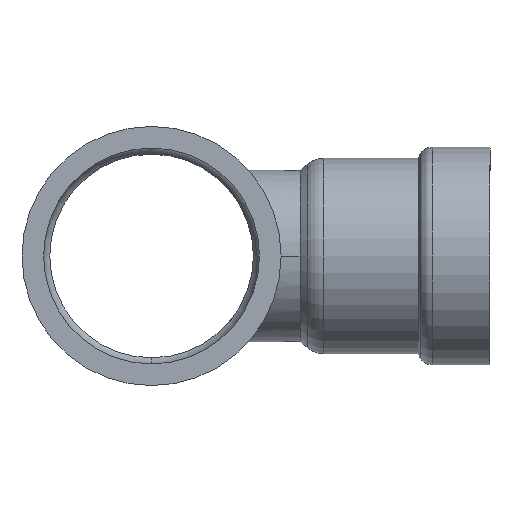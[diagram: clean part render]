
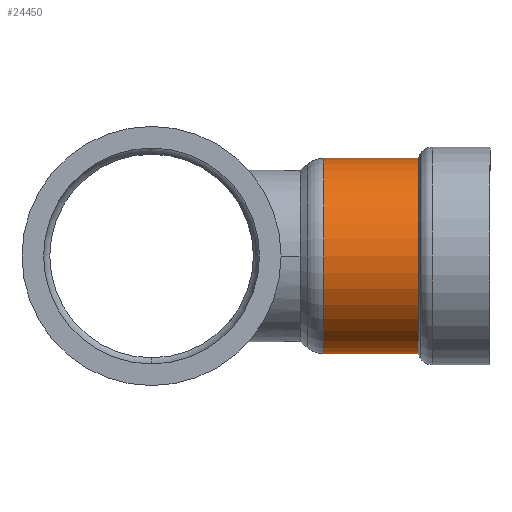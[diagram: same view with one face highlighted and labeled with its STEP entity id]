
A CAD part, left-side view. The second image highlights one B-rep face of the part: STEP entity #24450.
In plain terms, the highlighted cylindrical face has radius 27.85 mm (diameter 55.7 mm), a partial arc.
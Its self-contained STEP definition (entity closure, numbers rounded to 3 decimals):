
#24040=CARTESIAN_POINT('',(149.148,49.095,75.784));
#24050=DIRECTION('',(0.,0.,1.));
#24060=DIRECTION('',(0.,1.,0.));
#24070=AXIS2_PLACEMENT_3D('',#24040,#24050,#24060);
#24080=CYLINDRICAL_SURFACE('',#24070,27.85);
#24090=CARTESIAN_POINT('',(149.148,21.245,75.784));
#24100=DIRECTION('',(0.,0.,1.));
#24110=VECTOR('',#24100,1.);
#24120=LINE('',#24090,#24110);
#24130=CARTESIAN_POINT('',(149.148,21.245,49.017));
#24140=VERTEX_POINT('',#24130);
#24150=CARTESIAN_POINT('',(149.148,21.245,75.896));
#24160=VERTEX_POINT('',#24150);
#24170=EDGE_CURVE('',#24140,#24160,#24120,.T.);
#24180=ORIENTED_EDGE('',*,*,#24170,.T.);
#24190=CARTESIAN_POINT('',(149.148,49.095,49.017));
#24200=DIRECTION('',(0.,0.,1.));
#24210=DIRECTION('',(0.,-1.,0.));
#24220=AXIS2_PLACEMENT_3D('',#24190,#24200,#24210);
#24230=CIRCLE('',#24220,27.85);
#24240=CARTESIAN_POINT('',(149.148,76.945,49.017));
#24250=VERTEX_POINT('',#24240);
#24260=EDGE_CURVE('',#24250,#24140,#24230,.T.);
#24270=ORIENTED_EDGE('',*,*,#24260,.T.);
#24280=CARTESIAN_POINT('',(149.148,76.945,75.784));
#24290=DIRECTION('',(0.,0.,1.));
#24300=VECTOR('',#24290,1.);
#24310=LINE('',#24280,#24300);
#24320=CARTESIAN_POINT('',(149.148,76.945,75.896));
#24330=VERTEX_POINT('',#24320);
#24340=EDGE_CURVE('',#24250,#24330,#24310,.T.);
#24350=ORIENTED_EDGE('',*,*,#24340,.F.);
#24360=CARTESIAN_POINT('',(149.148,49.095,75.896));
#24370=DIRECTION('',(0.,0.,-1.));
#24380=DIRECTION('',(0.,1.,0.));
#24390=AXIS2_PLACEMENT_3D('',#24360,#24370,#24380);
#24400=CIRCLE('',#24390,27.85);
#24410=EDGE_CURVE('',#24160,#24330,#24400,.T.);
#24420=ORIENTED_EDGE('',*,*,#24410,.T.);
#24430=EDGE_LOOP('',(#24420,#24350,#24270,#24180));
#24440=FACE_OUTER_BOUND('',#24430,.T.);
#24450=ADVANCED_FACE('',(#24440),#24080,.T.);
